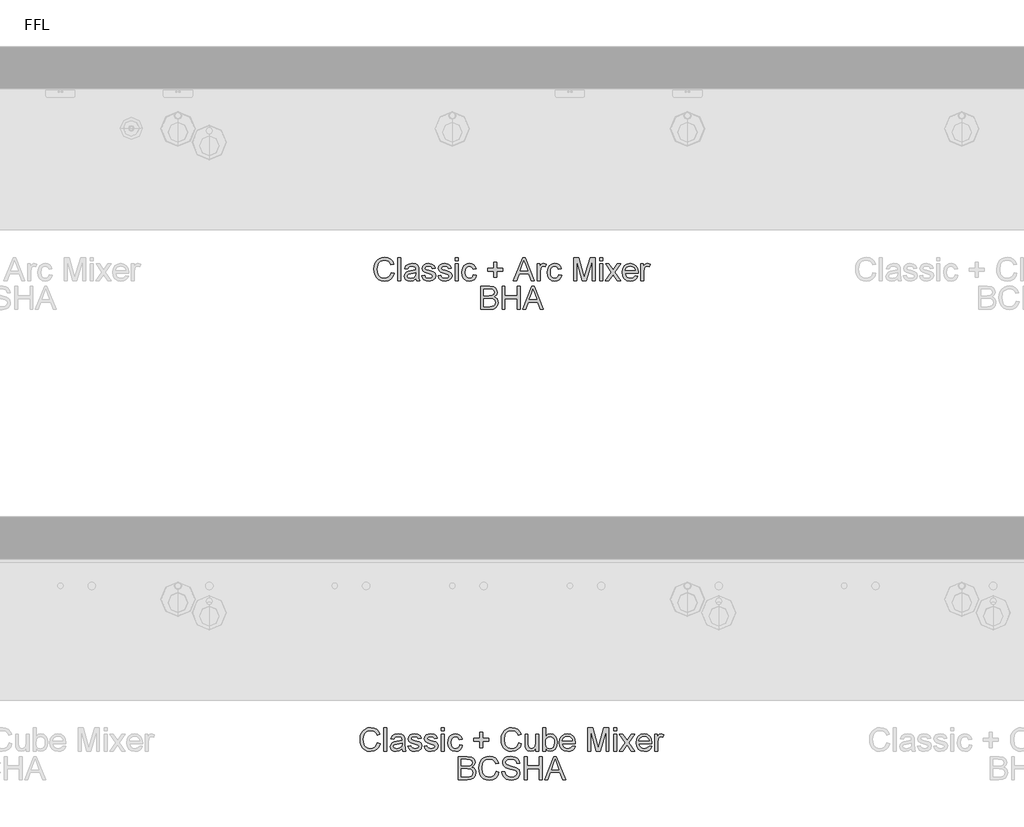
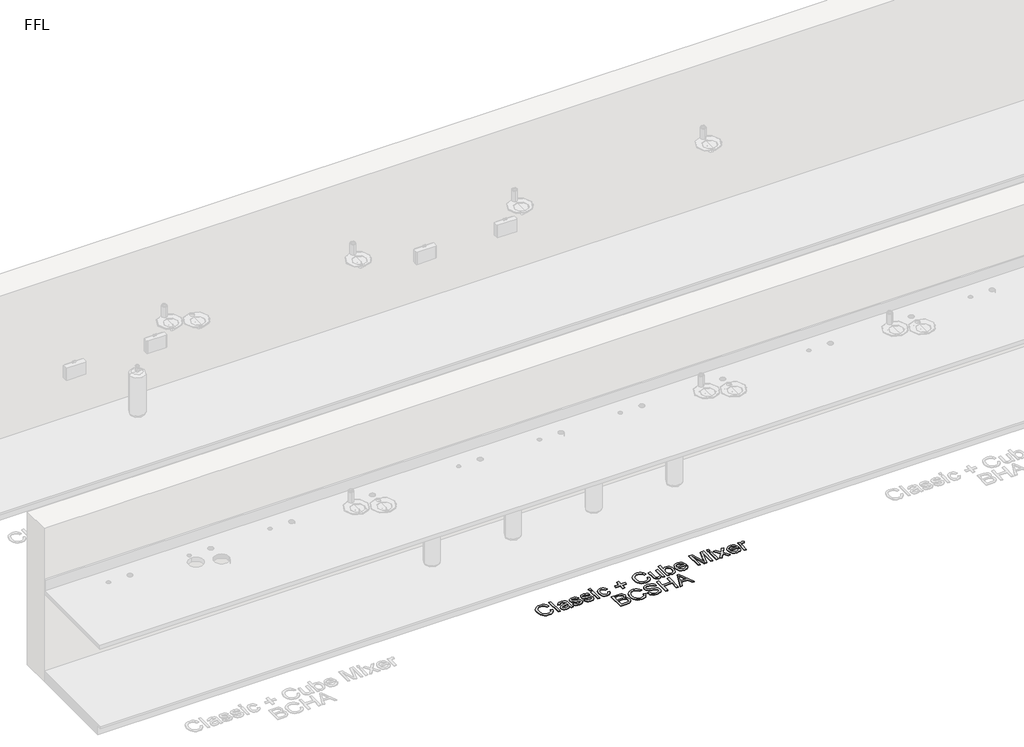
# One storey, part 8 of 13: 2 proxies.
"""IFC4 building model written with IfcOpenShell, lengths in millimetres."""

from ifc_helpers import new_model, si_unit, origin, origin_with_axes, place, context, project, spatial, polyline, outline, extrude, element, save

model = new_model("IFC4")

# Units and contexts
model_context = context("Model", 3, world=origin())
ifc_project = project(units=[si_unit("LENGTHUNIT", "METRE", prefix="MILLI")], contexts=[model_context])

# Site, building, storey
site = spatial("IfcSite", under=ifc_project)
building = spatial("IfcBuilding", under=site)
storey = spatial("IfcBuildingStorey", under=building, Name="FFL", Elevation=0.0)

# Proxies
placement = place(None, origin())
element("IfcBuildingElementProxy", 1, Name="150mm Arial", ObjectType="150mm Arial", at=placement, inside=storey, context=model_context, shape_type="SweptSolid", body=[
    extrude(outline(polyline([(391.419638, 3676.3018309), (409.8811765, 3671.5422155), (401.3625467, 3650.0292948), (387.9941573, 3634.3126482), (370.4340611, 3624.698766), (349.3403111, 3621.4941386), (327.9265491, 3623.9190184), (310.92084, 3631.1936578), (297.8859842, 3643.065653), (288.3847823, 3659.2826001), (282.584001, 3678.3481049), (280.6504073, 3698.7657732), (282.8364049, 3720.3012299), (289.3943976, 3738.8979847), (299.9818375, 3753.9655929), (314.2561765, 3764.9136097), (331.185263, 3771.5797756), (349.7369457, 3773.8018309), (369.9788327, 3770.9262299), (386.7141092, 3762.299427), (399.4199385, 3748.4532732), (407.5734842, 3729.9196193), (389.1119457, 3725.5205809), (382.7117053, 3738.9836217), (373.967715, 3748.2188982), (362.7718015, 3753.5599439), (349.0157919, 3755.3402924), (333.1594217, 3753.3661338), (320.1335803, 3747.4436578), (310.2492654, 3738.1948597), (303.8174746, 3726.2417347), (299.1119457, 3698.8018309), (304.6828592, 3666.9989463), (311.8042534, 3655.1224439), (322.0266092, 3646.6804367), (334.2817174, 3641.6368669), (347.5013688, 3639.955677), (362.911525, 3642.2453405), (375.7525707, 3649.1143309), (385.4475827, 3660.4905328), (391.419638, 3676.3018309)])), origin_with_axes(), (0.0, 0.0, 1.0), 5.0),
    extrude(outline(polyline([(432.9580996, 3623.8018309), (432.9580996, 3771.4941386), (451.419638, 3771.4941386), (451.419638, 3623.8018309), (432.9580996, 3623.8018309)])), origin_with_axes(), (0.0, 0.0, 1.0), 5.0),
    extrude(outline(polyline([(548.342715, 3637.6479847), (530.4400707, 3625.1359655), (510.6624265, 3621.4941386), (495.2342414, 3623.6846434), (483.8535323, 3630.2561578), (476.8358039, 3640.2351242), (474.4965611, 3652.6479847), (478.030215, 3667.2513501), (487.3150707, 3677.8523117), (500.2417534, 3683.910004), (516.2153111, 3686.6864463), (548.2345419, 3693.0326001), (548.342715, 3697.143177), (547.0716813, 3705.3823597), (543.2585803, 3710.7729847), (534.7309361, 3714.7753886), (522.8499265, 3716.1095232), (504.1720419, 3712.5578405), (495.2657919, 3699.955677), (476.8042534, 3702.2633693), (484.7910323, 3720.2922155), (500.872763, 3730.8571193), (525.2297342, 3734.5710617), (547.6035323, 3731.2898117), (560.2417534, 3723.050629), (565.9028111, 3710.5205809), (566.8042534, 3694.3667347), (566.8042534, 3671.3979847), (567.7417534, 3639.3246674), (571.419638, 3623.8018309), (552.9580996, 3623.8018309), (548.342715, 3637.6479847)]), holes=[polyline([(548.342715, 3674.5710617), (518.5590611, 3668.910004), (502.6756476, 3665.9172155), (495.482138, 3661.049427), (492.9580996, 3653.9460617), (498.4568976, 3643.9580809), (514.592715, 3639.955677), (533.2705996, 3644.3727443), (545.3138688, 3655.0638501), (548.2345419, 3669.3426963), (548.342715, 3674.5710617)])]), origin_with_axes(), (0.0, 0.0, 1.0), 5.0),
    extrude(outline(polyline([(585.2657919, 3656.1095232), (603.7273303, 3658.4172155), (606.638989, 3650.5205809), (612.2730034, 3644.7152924), (631.8523303, 3639.955677), (650.6744457, 3644.3186578), (656.8042534, 3654.5590424), (650.638388, 3662.8523117), (631.6359842, 3668.1167347), (603.8355034, 3677.1491867), (591.70209, 3687.6960617), (587.5734842, 3702.5878886), (590.8907919, 3716.3438982), (599.9412726, 3726.8547155), (611.6780515, 3732.3174559), (627.561465, 3734.5710617), (650.0254073, 3730.9472636), (664.3042534, 3721.1395713), (670.6504073, 3704.5710617), (652.1888688, 3702.2633693), (645.247763, 3712.4496674), (629.0037726, 3716.1095232), (611.3355034, 3712.611927), (606.0350226, 3704.4628886), (608.2345419, 3699.0902924), (615.1215611, 3695.0157732), (631.0230034, 3691.0854847), (658.1203592, 3682.3955809), (670.7044938, 3672.5518309), (675.2657919, 3656.5061578), (669.9112246, 3638.8378886), (654.4605034, 3626.019379), (631.5999265, 3621.4941386), (612.9851428, 3623.675629), (599.4004073, 3630.2201001), (590.3318976, 3641.0554367), (585.2657919, 3656.1095232)])), origin_with_axes(), (0.0, 0.0, 1.0), 5.0),
    extrude(outline(polyline([(689.1119457, 3656.1095232), (707.5734842, 3658.4172155), (710.4851428, 3650.5205809), (716.1191573, 3644.7152924), (735.6984842, 3639.955677), (754.5205996, 3644.3186578), (760.6504073, 3654.5590424), (754.4845419, 3662.8523117), (735.482138, 3668.1167347), (707.6816573, 3677.1491867), (695.5482438, 3687.6960617), (691.419638, 3702.5878886), (694.7369457, 3716.3438982), (703.7874265, 3726.8547155), (715.5242053, 3732.3174559), (731.4076188, 3734.5710617), (753.8715611, 3730.9472636), (768.1504073, 3721.1395713), (774.4965611, 3704.5710617), (756.0350226, 3702.2633693), (749.0939169, 3712.4496674), (732.8499265, 3716.1095232), (715.1816573, 3712.611927), (709.8811765, 3704.4628886), (712.0806957, 3699.0902924), (718.967715, 3695.0157732), (734.8691573, 3691.0854847), (761.966513, 3682.3955809), (774.5506476, 3672.5518309), (779.1119457, 3656.5061578), (773.7573784, 3638.8378886), (758.3066573, 3626.019379), (735.4460803, 3621.4941386), (716.8312967, 3623.675629), (703.2465611, 3630.2201001), (694.1780515, 3641.0554367), (689.1119457, 3656.1095232)])), origin_with_axes(), (0.0, 0.0, 1.0), 5.0),
    extrude(outline(polyline([(799.8811765, 3623.8018309), (799.8811765, 3732.2633693), (818.342715, 3732.2633693), (818.342715, 3623.8018309), (799.8811765, 3623.8018309)])), origin_with_axes(), (0.0, 0.0, 1.0), 5.0),
    extrude(outline(polyline([(799.8811765, 3753.0326001), (799.8811765, 3771.4941386), (818.342715, 3771.4941386), (818.342715, 3753.0326001), (799.8811765, 3753.0326001)])), origin_with_axes(), (0.0, 0.0, 1.0), 5.0),
    extrude(outline(polyline([(915.2657919, 3663.0326001), (933.7273303, 3660.7249078), (928.5800948, 3644.3051362), (918.9076188, 3631.8967828), (905.6203592, 3624.0947996), (889.6287726, 3621.4941386), (869.990852, 3625.1224439), (854.6347823, 3636.0073597), (844.7234241, 3653.6711217), (841.419638, 3677.6359655), (847.0626669, 3708.3030328), (854.1840611, 3719.8009294), (864.2621861, 3728.0085617), (876.318977, 3732.9304367), (889.3763688, 3734.5710617), (904.9758279, 3732.3174559), (917.4472823, 3725.5566386), (926.3940972, 3714.6491867), (931.419638, 3699.955677), (912.9580996, 3697.6479847), (904.3943976, 3711.4761097), (889.5205996, 3716.1095232), (877.5900106, 3713.8288742), (868.1203592, 3706.986927), (861.9409722, 3695.2140905), (859.8811765, 3678.1407732), (861.8959, 3660.8375881), (867.9400707, 3649.0241867), (877.2384481, 3642.2228044), (889.0157919, 3639.955677), (898.5755875, 3641.3709415), (906.4136284, 3645.6167347), (912.115251, 3652.8012299), (915.2657919, 3663.0326001)])), origin_with_axes(), (0.0, 0.0, 1.0), 5.0),
    extrude(outline(polyline([(1044.4965611, 3646.878754), (1044.4965611, 3686.1095232), (1005.2657919, 3686.1095232), (1005.2657919, 3704.5710617), (1044.4965611, 3704.5710617), (1044.4965611, 3743.8018309), (1062.9580996, 3743.8018309), (1062.9580996, 3704.5710617), (1102.1888688, 3704.5710617), (1102.1888688, 3686.1095232), (1062.9580996, 3686.1095232), (1062.9580996, 3646.878754), (1044.4965611, 3646.878754)])), origin_with_axes(), (0.0, 0.0, 1.0), 5.0),
    extrude(outline(polyline([(1170.373965, 3623.8018309), (1229.3282919, 3771.4941386), (1245.0494457, 3771.4941386), (1304.0037726, 3623.8018309), (1284.4965611, 3623.8018309), (1267.5855034, 3669.955677), (1206.7561765, 3669.955677), (1189.8811765, 3623.8018309), (1170.373965, 3623.8018309)]), holes=[polyline([(1213.5350226, 3688.4172155), (1260.842715, 3688.4172155), (1247.5374265, 3724.7273117), (1237.1888688, 3753.0326001), (1227.9941573, 3727.9003886), (1213.5350226, 3688.4172155)])]), origin_with_axes(), (0.0, 0.0, 1.0), 5.0),
    extrude(outline(polyline([(1321.419638, 3623.8018309), (1321.419638, 3732.2633693), (1337.5734842, 3732.2633693), (1337.5734842, 3716.2176963), (1349.0398303, 3731.0013501), (1360.5782919, 3734.5710617), (1379.1119457, 3728.8739463), (1372.9460803, 3712.3234655), (1359.9653111, 3716.1095232), (1349.5266092, 3712.4676963), (1342.873965, 3702.3715424), (1339.8811765, 3680.8090424), (1339.8811765, 3623.8018309), (1321.419638, 3623.8018309)])), origin_with_axes(), (0.0, 0.0, 1.0), 5.0),
    extrude(outline(polyline([(1459.8811765, 3663.0326001), (1478.342715, 3660.7249078), (1473.1954794, 3644.3051362), (1463.5230034, 3631.8967828), (1450.2357438, 3624.0947996), (1434.2441573, 3621.4941386), (1414.6062366, 3625.1224439), (1399.2501669, 3636.0073597), (1389.3388087, 3653.6711217), (1386.0350226, 3677.6359655), (1391.6780515, 3708.3030328), (1398.7994457, 3719.8009294), (1408.8775707, 3728.0085617), (1420.9343616, 3732.9304367), (1433.9917534, 3734.5710617), (1449.5912125, 3732.3174559), (1462.0626669, 3725.5566386), (1471.0094818, 3714.6491867), (1476.0350226, 3699.955677), (1457.5734842, 3697.6479847), (1449.0097823, 3711.4761097), (1434.1359842, 3716.1095232), (1422.2053952, 3713.8288742), (1412.7357438, 3706.986927), (1406.5563568, 3695.2140905), (1404.4965611, 3678.1407732), (1406.5112847, 3660.8375881), (1412.5554553, 3649.0241867), (1421.8538327, 3642.2228044), (1433.6311765, 3639.955677), (1443.1909722, 3641.3709415), (1451.029013, 3645.6167347), (1456.7306356, 3652.8012299), (1459.8811765, 3663.0326001)])), origin_with_axes(), (0.0, 0.0, 1.0), 5.0),
    extrude(outline(polyline([(1554.4965611, 3623.8018309), (1554.4965611, 3771.4941386), (1586.263388, 3771.4941386), (1616.4797342, 3667.3955809), (1622.5734842, 3645.6527924), (1629.1720419, 3669.1984655), (1658.8835803, 3771.4941386), (1690.6504073, 3771.4941386), (1690.6504073, 3623.8018309), (1672.1888688, 3623.8018309), (1672.1888688, 3753.0326001), (1635.0855034, 3623.8018309), (1610.061465, 3623.8018309), (1572.9580996, 3753.0326001), (1572.9580996, 3623.8018309), (1554.4965611, 3623.8018309)])), origin_with_axes(), (0.0, 0.0, 1.0), 5.0),
    extrude(outline(polyline([(1720.6504073, 3753.0326001), (1720.6504073, 3771.4941386), (1739.1119457, 3771.4941386), (1739.1119457, 3753.0326001), (1720.6504073, 3753.0326001)])), origin_with_axes(), (0.0, 0.0, 1.0), 5.0),
    extrude(outline(polyline([(1720.6504073, 3623.8018309), (1720.6504073, 3732.2633693), (1739.1119457, 3732.2633693), (1739.1119457, 3623.8018309), (1720.6504073, 3623.8018309)])), origin_with_axes(), (0.0, 0.0, 1.0), 5.0),
    extrude(outline(polyline([(1755.2657919, 3623.8018309), (1794.7129073, 3678.3210617), (1757.5734842, 3732.2633693), (1779.7850226, 3732.2633693), (1797.7056957, 3706.3018309), (1806.0710803, 3694.0422155), (1813.3186765, 3704.066254), (1833.7273303, 3732.2633693), (1855.9388688, 3732.2633693), (1816.9244457, 3678.3210617), (1854.4965611, 3623.8018309), (1832.2850226, 3623.8018309), (1809.6768496, 3656.5782732), (1805.530215, 3662.5638501), (1777.4773303, 3623.8018309), (1755.2657919, 3623.8018309)])), origin_with_axes(), (0.0, 0.0, 1.0), 5.0),
    extrude(outline(polyline([(1946.5879073, 3656.1095232), (1964.6888688, 3653.8018309), (1958.1669337, 3640.1630088), (1947.7597823, 3629.9676963), (1933.7017895, 3623.612528), (1916.2273303, 3621.4941386), (1894.5656717, 3625.1494871), (1877.8980034, 3636.1155328), (1867.2699986, 3653.6801362), (1863.7273303, 3677.1311578), (1867.3060563, 3701.3709415), (1878.0422342, 3719.4989463), (1894.4845419, 3730.8030328), (1915.1816573, 3734.5710617), (1935.2342414, 3730.8120472), (1951.2573784, 3719.535004), (1961.7636885, 3701.4430568), (1965.2657919, 3677.2393309), (1965.1576188, 3672.2633693), (1882.1888688, 3672.2633693), (1885.3844818, 3658.4442588), (1892.8078592, 3648.285004), (1903.521501, 3642.0380088), (1916.5879073, 3639.955677), (1934.6888688, 3643.8138501), (1946.5879073, 3656.1095232)]), holes=[polyline([(1882.1888688, 3690.7249078), (1946.8042534, 3690.7249078), (1944.3072582, 3700.4785136), (1939.4124265, 3707.455677), (1928.6492053, 3713.9460617), (1915.1095419, 3716.1095232), (1902.6651308, 3714.3832612), (1892.3751669, 3709.2044751), (1885.2222222, 3701.1320592), (1882.1888688, 3690.7249078)])]), origin_with_axes(), (0.0, 0.0, 1.0), 5.0),
    extrude(outline(polyline([(1983.7273303, 3623.8018309), (1983.7273303, 3732.2633693), (1999.8811765, 3732.2633693), (1999.8811765, 3716.2176963), (2011.3475226, 3731.0013501), (2022.8859842, 3734.5710617), (2041.419638, 3728.8739463), (2035.2537726, 3712.3234655), (2022.2730034, 3716.1095232), (2011.8343015, 3712.4676963), (2005.1816573, 3702.3715424), (2002.1888688, 3680.8090424), (2002.1888688, 3623.8018309), (1983.7273303, 3623.8018309)])), origin_with_axes(), (0.0, 0.0, 1.0), 5.0),
    extrude(outline(polyline([(961.419638, 3441.4941386), (961.419638, 3589.1864463), (1017.7778111, 3589.1864463), (1045.3799746, 3584.8414943), (1054.6558159, 3579.3291746), (1061.6780515, 3571.4821193), (1067.5734842, 3552.5878886), (1062.6155515, 3535.3342828), (1047.6335803, 3522.2633693), (1058.0948183, 3516.800629), (1065.8246861, 3508.4893309), (1070.5978231, 3497.8793549), (1072.1888688, 3485.5205809), (1067.8439169, 3465.6708213), (1057.0806957, 3451.5362059), (1041.0169938, 3444.0362059), (1017.3451188, 3441.4941386), (961.419638, 3441.4941386)]), holes=[polyline([(979.8811765, 3529.1864463), (1013.5951188, 3529.1864463), (1033.2826188, 3530.7729847), (1045.1275707, 3537.6059174), (1049.1119457, 3549.6311578), (1045.3980034, 3561.674427), (1034.7609842, 3568.7958213), (1011.0350226, 3570.7249078), (979.8811765, 3570.7249078), (979.8811765, 3529.1864463)]), polyline([(979.8811765, 3459.955677), (1017.7417534, 3459.955677), (1031.4436765, 3460.6768309), (1043.0362246, 3464.6972636), (1050.716513, 3472.9003886), (1053.7273303, 3485.3402924), (1050.1936765, 3499.691254), (1038.7453592, 3508.2549559), (1015.9388688, 3510.7249078), (979.8811765, 3510.7249078), (979.8811765, 3459.955677)])]), origin_with_axes(), (0.0, 0.0, 1.0), 5.0),
    extrude(outline(polyline([(1097.5734842, 3441.4941386), (1097.5734842, 3589.1864463), (1116.0350226, 3589.1864463), (1116.0350226, 3529.1864463), (1194.4965611, 3529.1864463), (1194.4965611, 3589.1864463), (1212.9580996, 3589.1864463), (1212.9580996, 3441.4941386), (1194.4965611, 3441.4941386), (1194.4965611, 3510.7249078), (1116.0350226, 3510.7249078), (1116.0350226, 3441.4941386), (1097.5734842, 3441.4941386)])), origin_with_axes(), (0.0, 0.0, 1.0), 5.0),
    extrude(outline(polyline([(1228.0662726, 3441.4941386), (1287.0205996, 3589.1864463), (1302.7417534, 3589.1864463), (1361.6960803, 3441.4941386), (1342.1888688, 3441.4941386), (1325.2778111, 3487.6479847), (1264.4484842, 3487.6479847), (1247.5734842, 3441.4941386), (1228.0662726, 3441.4941386)]), holes=[polyline([(1271.2273303, 3506.1095232), (1318.5350226, 3506.1095232), (1305.2297342, 3542.4196193), (1294.8811765, 3570.7249078), (1285.686465, 3545.5926963), (1271.2273303, 3506.1095232)])]), origin_with_axes(), (0.0, 0.0, 1.0), 5.0),
])
element("IfcBuildingElementProxy", 2, Name="150mm Arial", ObjectType="150mm Arial", at=placement, inside=storey, context=model_context, shape_type="SweptSolid", body=[
    extrude(outline(polyline([(302.5723994, 676.3018309), (321.0339379, 671.5422155), (312.5153081, 650.0292948), (299.1469187, 634.3126482), (281.5868225, 624.698766), (260.4930725, 621.4941386), (239.0793105, 623.9190184), (222.0736014, 631.1936578), (209.0387456, 643.065653), (199.5375437, 659.2826001), (193.7367624, 678.3481049), (191.8031687, 698.7657732), (193.9891663, 720.3012299), (200.5471591, 738.8979847), (211.134599, 753.9655929), (225.4089379, 764.9136097), (242.3380244, 771.5797756), (260.8897071, 773.8018309), (281.1315941, 770.9262299), (297.8668706, 762.299427), (310.5726999, 748.4532732), (318.7262456, 729.9196193), (300.2647071, 725.5205809), (293.8644667, 738.9836217), (285.1204764, 748.2188982), (273.9245629, 753.5599439), (260.1685533, 755.3402924), (244.3121831, 753.3661338), (231.2863417, 747.4436578), (221.4020268, 738.1948597), (214.970236, 726.2417347), (210.2647071, 698.8018309), (215.8356206, 666.9989463), (222.9570148, 655.1224439), (233.1793706, 646.6804367), (245.4344788, 641.6368669), (258.6541302, 639.955677), (274.0642865, 642.2453405), (286.9053321, 649.1143309), (296.6003441, 660.4905328), (302.5723994, 676.3018309)])), origin_with_axes(), (0.0, 0.0, 1.0), 5.0),
    extrude(outline(polyline([(344.110861, 623.8018309), (344.110861, 771.4941386), (362.5723994, 771.4941386), (362.5723994, 623.8018309), (344.110861, 623.8018309)])), origin_with_axes(), (0.0, 0.0, 1.0), 5.0),
    extrude(outline(polyline([(459.4954764, 637.6479847), (441.5928321, 625.1359655), (421.8151879, 621.4941386), (406.3870028, 623.6846434), (395.0062937, 630.2561578), (387.9885653, 640.2351242), (385.6493225, 652.6479847), (389.1829764, 667.2513501), (398.4678321, 677.8523117), (411.3945148, 683.910004), (427.3680725, 686.6864463), (459.3873033, 693.0326001), (459.4954764, 697.143177), (458.2244427, 705.3823597), (454.4113417, 710.7729847), (445.8836975, 714.7753886), (434.0026879, 716.1095232), (415.3248033, 712.5578405), (406.4185533, 699.955677), (387.9570148, 702.2633693), (395.9437937, 720.2922155), (412.0255244, 730.8571193), (436.3824956, 734.5710617), (458.7562937, 731.2898117), (471.3945148, 723.050629), (477.0555725, 710.5205809), (477.9570148, 694.3667347), (477.9570148, 671.3979847), (478.8945148, 639.3246674), (482.5723994, 623.8018309), (464.110861, 623.8018309), (459.4954764, 637.6479847)]), holes=[polyline([(459.4954764, 674.5710617), (429.7118225, 668.910004), (413.8284091, 665.9172155), (406.6348994, 661.049427), (404.110861, 653.9460617), (409.6096591, 643.9580809), (425.7454764, 639.955677), (444.423361, 644.3727443), (456.4666302, 655.0638501), (459.3873033, 669.3426963), (459.4954764, 674.5710617)])]), origin_with_axes(), (0.0, 0.0, 1.0), 5.0),
    extrude(outline(polyline([(496.4185533, 656.1095232), (514.8800917, 658.4172155), (517.7917504, 650.5205809), (523.4257648, 644.7152924), (543.0050917, 639.955677), (561.8272071, 644.3186578), (567.9570148, 654.5590424), (561.7911494, 662.8523117), (542.7887456, 668.1167347), (514.9882648, 677.1491867), (502.8548514, 687.6960617), (498.7262456, 702.5878886), (502.0435533, 716.3438982), (511.0940341, 726.8547155), (522.8308129, 732.3174559), (538.7142264, 734.5710617), (561.1781687, 730.9472636), (575.4570148, 721.1395713), (581.8031687, 704.5710617), (563.3416302, 702.2633693), (556.4005244, 712.4496674), (540.1565341, 716.1095232), (522.4882648, 712.611927), (517.1877841, 704.4628886), (519.3873033, 699.0902924), (526.2743225, 695.0157732), (542.1757648, 691.0854847), (569.2731206, 682.3955809), (581.8572552, 672.5518309), (586.4185533, 656.5061578), (581.063986, 638.8378886), (565.6132648, 626.019379), (542.7526879, 621.4941386), (524.1379042, 623.675629), (510.5531687, 630.2201001), (501.4846591, 641.0554367), (496.4185533, 656.1095232)])), origin_with_axes(), (0.0, 0.0, 1.0), 5.0),
    extrude(outline(polyline([(600.2647071, 656.1095232), (618.7262456, 658.4172155), (621.6379042, 650.5205809), (627.2719187, 644.7152924), (646.8512456, 639.955677), (665.673361, 644.3186578), (671.8031687, 654.5590424), (665.6373033, 662.8523117), (646.6348994, 668.1167347), (618.8344187, 677.1491867), (606.7010052, 687.6960617), (602.5723994, 702.5878886), (605.8897071, 716.3438982), (614.9401879, 726.8547155), (626.6769667, 732.3174559), (642.5603802, 734.5710617), (665.0243225, 730.9472636), (679.3031687, 721.1395713), (685.6493225, 704.5710617), (667.1877841, 702.2633693), (660.2466783, 712.4496674), (644.0026879, 716.1095232), (626.3344187, 712.611927), (621.0339379, 704.4628886), (623.2334571, 699.0902924), (630.1204764, 695.0157732), (646.0219187, 691.0854847), (673.1192744, 682.3955809), (685.7034091, 672.5518309), (690.2647071, 656.5061578), (684.9101398, 638.8378886), (669.4594187, 626.019379), (646.5988417, 621.4941386), (627.9840581, 623.675629), (614.3993225, 630.2201001), (605.3308129, 641.0554367), (600.2647071, 656.1095232)])), origin_with_axes(), (0.0, 0.0, 1.0), 5.0),
    extrude(outline(polyline([(711.0339379, 623.8018309), (711.0339379, 732.2633693), (729.4954764, 732.2633693), (729.4954764, 623.8018309), (711.0339379, 623.8018309)])), origin_with_axes(), (0.0, 0.0, 1.0), 5.0),
    extrude(outline(polyline([(711.0339379, 753.0326001), (711.0339379, 771.4941386), (729.4954764, 771.4941386), (729.4954764, 753.0326001), (711.0339379, 753.0326001)])), origin_with_axes(), (0.0, 0.0, 1.0), 5.0),
    extrude(outline(polyline([(826.4185533, 663.0326001), (844.8800917, 660.7249078), (839.7328562, 644.3051362), (830.0603802, 631.8967828), (816.7731206, 624.0947996), (800.7815341, 621.4941386), (781.1436134, 625.1224439), (765.7875437, 636.0073597), (755.8761855, 653.6711217), (752.5723994, 677.6359655), (758.2154283, 708.3030328), (765.3368225, 719.8009294), (775.4149475, 728.0085617), (787.4717384, 732.9304367), (800.5291302, 734.5710617), (816.1285893, 732.3174559), (828.6000437, 725.5566386), (837.5468586, 714.6491867), (842.5723994, 699.955677), (824.110861, 697.6479847), (815.5471591, 711.4761097), (800.673361, 716.1095232), (788.742772, 713.8288742), (779.2731206, 706.986927), (773.0937336, 695.2140905), (771.0339379, 678.1407732), (773.0486615, 660.8375881), (779.0928321, 649.0241867), (788.3912095, 642.2228044), (800.1685533, 639.955677), (809.728349, 641.3709415), (817.5663898, 645.6167347), (823.2680124, 652.8012299), (826.4185533, 663.0326001)])), origin_with_axes(), (0.0, 0.0, 1.0), 5.0),
    extrude(outline(polyline([(955.6493225, 646.878754), (955.6493225, 686.1095232), (916.4185533, 686.1095232), (916.4185533, 704.5710617), (955.6493225, 704.5710617), (955.6493225, 743.8018309), (974.110861, 743.8018309), (974.110861, 704.5710617), (1013.3416302, 704.5710617), (1013.3416302, 686.1095232), (974.110861, 686.1095232), (974.110861, 646.878754), (955.6493225, 646.878754)])), origin_with_axes(), (0.0, 0.0, 1.0), 5.0),
    extrude(outline(polyline([(1202.5723994, 676.3018309), (1221.0339379, 671.5422155), (1212.5153081, 650.0292948), (1199.1469187, 634.3126482), (1181.5868225, 624.698766), (1160.4930725, 621.4941386), (1139.0793105, 623.9190184), (1122.0736014, 631.1936578), (1109.0387456, 643.065653), (1099.5375437, 659.2826001), (1093.7367624, 678.3481049), (1091.8031687, 698.7657732), (1093.9891663, 720.3012299), (1100.5471591, 738.8979847), (1111.134599, 753.9655929), (1125.4089379, 764.9136097), (1142.3380244, 771.5797756), (1160.8897071, 773.8018309), (1181.1315941, 770.9262299), (1197.8668706, 762.299427), (1210.5726999, 748.4532732), (1218.7262456, 729.9196193), (1200.2647071, 725.5205809), (1193.8644667, 738.9836217), (1185.1204764, 748.2188982), (1173.9245629, 753.5599439), (1160.1685533, 755.3402924), (1144.3121831, 753.3661338), (1131.2863417, 747.4436578), (1121.4020268, 738.1948597), (1114.970236, 726.2417347), (1110.2647071, 698.8018309), (1115.8356206, 666.9989463), (1122.9570148, 655.1224439), (1133.1793706, 646.6804367), (1145.4344788, 641.6368669), (1158.6541302, 639.955677), (1174.0642865, 642.2453405), (1186.9053321, 649.1143309), (1196.6003441, 660.4905328), (1202.5723994, 676.3018309)])), origin_with_axes(), (0.0, 0.0, 1.0), 5.0),
    extrude(outline(polyline([(1313.3416302, 623.8018309), (1313.3416302, 642.4436578), (1298.8824956, 626.7315184), (1280.0243225, 621.4941386), (1262.6625437, 625.1720232), (1250.6913898, 634.4027924), (1245.1925917, 647.9965424), (1244.110861, 665.160004), (1244.110861, 732.2633693), (1262.5723994, 732.2633693), (1262.5723994, 673.8499078), (1263.6901879, 655.0277924), (1270.9918706, 643.9761097), (1284.7478802, 639.955677), (1300.1625437, 644.066254), (1310.3488417, 655.2621674), (1313.3416302, 675.8330809), (1313.3416302, 732.2633693), (1331.8031687, 732.2633693), (1331.8031687, 623.8018309), (1313.3416302, 623.8018309)])), origin_with_axes(), (0.0, 0.0, 1.0), 5.0),
    extrude(outline(polyline([(1375.6493225, 623.8018309), (1357.1877841, 623.8018309), (1357.1877841, 771.4941386), (1375.6493225, 771.4941386), (1375.6493225, 716.722504), (1388.5760052, 730.1089222), (1404.6397071, 734.5710617), (1423.1373033, 730.550629), (1437.4882648, 719.2465424), (1446.3043706, 701.6684174), (1449.4954764, 679.6551963), (1446.1916903, 655.0097636), (1436.2803321, 636.674427), (1421.7355605, 625.2892107), (1404.5315341, 621.4941386), (1388.1162696, 626.3889703), (1375.6493225, 641.0734655), (1375.6493225, 623.8018309)]), holes=[polyline([(1375.6493225, 678.7898117), (1376.9113417, 663.393177), (1380.6973994, 652.972504), (1390.3698754, 643.2098838), (1402.9449956, 639.955677), (1413.6000437, 642.3535136), (1422.704611, 649.5470232), (1428.9516062, 661.4911338), (1431.0339379, 678.1407732), (1429.0372432, 695.033802), (1423.0471591, 706.8426963), (1414.2265461, 713.7928165), (1403.7382648, 716.1095232), (1393.0832167, 713.7116867), (1383.9786494, 706.518177), (1377.7316542, 694.7904126), (1375.6493225, 678.7898117)])]), origin_with_axes(), (0.0, 0.0, 1.0), 5.0),
    extrude(outline(polyline([(1546.2022071, 656.1095232), (1564.3031687, 653.8018309), (1557.7812336, 640.1630088), (1547.3740821, 629.9676963), (1533.3160893, 623.612528), (1515.8416302, 621.4941386), (1494.1799716, 625.1494871), (1477.5123033, 636.1155328), (1466.8842985, 653.6801362), (1463.3416302, 677.1311578), (1466.9203562, 701.3709415), (1477.6565341, 719.4989463), (1494.0988417, 730.8030328), (1514.7959571, 734.5710617), (1534.8485413, 730.8120472), (1550.8716783, 719.535004), (1561.3779884, 701.4430568), (1564.8800917, 677.2393309), (1564.7719187, 672.2633693), (1481.8031687, 672.2633693), (1484.9987816, 658.4442588), (1492.4221591, 648.285004), (1503.1358009, 642.0380088), (1516.2022071, 639.955677), (1534.3031687, 643.8138501), (1546.2022071, 656.1095232)]), holes=[polyline([(1481.8031687, 690.7249078), (1546.4185533, 690.7249078), (1543.9215581, 700.4785136), (1539.0267264, 707.455677), (1528.2635052, 713.9460617), (1514.7238417, 716.1095232), (1502.2794307, 714.3832612), (1491.9894667, 709.2044751), (1484.836522, 701.1320592), (1481.8031687, 690.7249078)])]), origin_with_axes(), (0.0, 0.0, 1.0), 5.0),
    extrude(outline(polyline([(1643.3416302, 623.8018309), (1643.3416302, 771.4941386), (1675.1084571, 771.4941386), (1705.3248033, 667.3955809), (1711.4185533, 645.6527924), (1718.017111, 669.1984655), (1747.7286494, 771.4941386), (1779.4954764, 771.4941386), (1779.4954764, 623.8018309), (1761.0339379, 623.8018309), (1761.0339379, 753.0326001), (1723.9305725, 623.8018309), (1698.9065341, 623.8018309), (1661.8031687, 753.0326001), (1661.8031687, 623.8018309), (1643.3416302, 623.8018309)])), origin_with_axes(), (0.0, 0.0, 1.0), 5.0),
    extrude(outline(polyline([(1809.4954764, 623.8018309), (1809.4954764, 732.2633693), (1827.9570148, 732.2633693), (1827.9570148, 623.8018309), (1809.4954764, 623.8018309)])), origin_with_axes(), (0.0, 0.0, 1.0), 5.0),
    extrude(outline(polyline([(1809.4954764, 753.0326001), (1809.4954764, 771.4941386), (1827.9570148, 771.4941386), (1827.9570148, 753.0326001), (1809.4954764, 753.0326001)])), origin_with_axes(), (0.0, 0.0, 1.0), 5.0),
    extrude(outline(polyline([(1844.110861, 623.8018309), (1883.5579764, 678.3210617), (1846.4185533, 732.2633693), (1868.6300917, 732.2633693), (1886.5507648, 706.3018309), (1894.9161494, 694.0422155), (1902.1637456, 704.066254), (1922.5723994, 732.2633693), (1944.7839379, 732.2633693), (1905.7695148, 678.3210617), (1943.3416302, 623.8018309), (1921.1300917, 623.8018309), (1898.5219187, 656.5782732), (1894.3752841, 662.5638501), (1866.3223994, 623.8018309), (1844.110861, 623.8018309)])), origin_with_axes(), (0.0, 0.0, 1.0), 5.0),
    extrude(outline(polyline([(2035.4329764, 656.1095232), (2053.5339379, 653.8018309), (2047.0120028, 640.1630088), (2036.6048514, 629.9676963), (2022.5468586, 623.612528), (2005.0723994, 621.4941386), (1983.4107408, 625.1494871), (1966.7430725, 636.1155328), (1956.1150677, 653.6801362), (1952.5723994, 677.1311578), (1956.1511254, 701.3709415), (1966.8873033, 719.4989463), (1983.329611, 730.8030328), (2004.0267264, 734.5710617), (2024.0793105, 730.8120472), (2040.1024475, 719.535004), (2050.6087576, 701.4430568), (2054.110861, 677.2393309), (2054.0026879, 672.2633693), (1971.0339379, 672.2633693), (1974.2295509, 658.4442588), (1981.6529283, 648.285004), (1992.3665701, 642.0380088), (2005.4329764, 639.955677), (2023.5339379, 643.8138501), (2035.4329764, 656.1095232)]), holes=[polyline([(1971.0339379, 690.7249078), (2035.6493225, 690.7249078), (2033.1523273, 700.4785136), (2028.2574956, 707.455677), (2017.4942744, 713.9460617), (2003.954611, 716.1095232), (1991.5101999, 714.3832612), (1981.220236, 709.2044751), (1974.0672913, 701.1320592), (1971.0339379, 690.7249078)])]), origin_with_axes(), (0.0, 0.0, 1.0), 5.0),
    extrude(outline(polyline([(2072.5723994, 623.8018309), (2072.5723994, 732.2633693), (2088.7262456, 732.2633693), (2088.7262456, 716.2176963), (2100.1925917, 731.0013501), (2111.7310533, 734.5710617), (2130.2647071, 728.8739463), (2124.0988417, 712.3234655), (2111.1180725, 716.1095232), (2100.6793706, 712.4676963), (2094.0267264, 702.3715424), (2091.0339379, 680.8090424), (2091.0339379, 623.8018309), (2072.5723994, 623.8018309)])), origin_with_axes(), (0.0, 0.0, 1.0), 5.0),
    extrude(outline(polyline([(819.4954764, 441.4941386), (819.4954764, 589.1864463), (875.8536494, 589.1864463), (903.4558129, 584.8414943), (912.7316542, 579.3291746), (919.7538898, 571.4821193), (925.6493225, 552.5878886), (920.6913898, 535.3342828), (905.7094187, 522.2633693), (916.1706566, 516.800629), (923.9005244, 508.4893309), (928.6736615, 497.8793549), (930.2647071, 485.5205809), (925.9197552, 465.6708213), (915.1565341, 451.5362059), (899.0928321, 444.0362059), (875.4209571, 441.4941386), (819.4954764, 441.4941386)]), holes=[polyline([(837.9570148, 529.1864463), (871.6709571, 529.1864463), (891.3584571, 530.7729847), (903.2034091, 537.6059174), (907.1877841, 549.6311578), (903.4738417, 561.674427), (892.8368225, 568.7958213), (869.110861, 570.7249078), (837.9570148, 570.7249078), (837.9570148, 529.1864463)]), polyline([(837.9570148, 459.955677), (875.8175917, 459.955677), (889.5195148, 460.6768309), (901.1120629, 464.6972636), (908.7923514, 472.9003886), (911.8031687, 485.3402924), (908.2695148, 499.691254), (896.8211975, 508.2549559), (874.0147071, 510.7249078), (837.9570148, 510.7249078), (837.9570148, 459.955677)])]), origin_with_axes(), (0.0, 0.0, 1.0), 5.0),
    extrude(outline(polyline([(1059.4954764, 493.9941386), (1077.9570148, 489.2345232), (1069.438385, 467.7216025), (1056.0699956, 452.0049559), (1038.5098994, 442.3910737), (1017.4161494, 439.1864463), (996.0023874, 441.6113261), (978.9966783, 448.8859655), (965.9618225, 460.7579607), (956.4606206, 476.9749078), (950.6598393, 496.0404126), (948.7262456, 516.4580809), (950.9122432, 537.9935376), (957.470236, 556.5902924), (968.0576759, 571.6579006), (982.3320148, 582.6059174), (999.2611014, 589.2720833), (1017.8127841, 591.4941386), (1038.0546711, 588.6185376), (1054.7899475, 579.9917347), (1067.4957768, 566.1455809), (1075.6493225, 547.611927), (1057.1877841, 543.2128886), (1050.7875437, 556.6759294), (1042.0435533, 565.9112059), (1030.8476398, 571.2522516), (1017.0916302, 573.0326001), (1001.23526, 571.0584415), (988.2094187, 565.1359655), (978.3251038, 555.8871674), (971.8933129, 543.9340424), (967.1877841, 516.4941386), (972.7586975, 484.691254), (979.8800917, 472.8147516), (990.1024475, 464.3727443), (1002.3575557, 459.3291746), (1015.5772071, 457.6479847), (1030.9873634, 459.9376482), (1043.8284091, 466.8066386), (1053.5234211, 478.1828405), (1059.4954764, 493.9941386)])), origin_with_axes(), (0.0, 0.0, 1.0), 5.0),
    extrude(outline(polyline([(1096.4185533, 492.2633693), (1114.8800917, 492.2633693), (1120.829611, 473.783802), (1135.360861, 462.1011097), (1157.5002841, 457.6479847), (1176.7911494, 461.019379), (1189.2490821, 470.2862059), (1193.3416302, 482.6720232), (1190.2767264, 494.1924559), (1177.7286494, 502.5758693), (1150.8476398, 509.6251482), (1121.9113417, 518.7297155), (1106.2082167, 532.4676963), (1101.0339379, 550.8210617), (1102.633998, 561.6338621), (1107.4341783, 571.7164943), (1115.3082768, 580.2621674), (1126.1300917, 586.4640905), (1153.4978802, 591.4941386), (1182.704611, 586.2297155), (1193.9005244, 579.7303165), (1202.1757648, 570.7609655), (1207.4131446, 559.8805568), (1209.4954764, 547.6479847), (1191.0339379, 547.6479847), (1187.6445148, 558.6636097), (1180.5772071, 566.6143309), (1169.5345389, 571.4280328), (1154.2190341, 573.0326001), (1138.5429523, 571.4460617), (1127.7887456, 566.6864463), (1121.5687937, 559.6822395), (1119.4954764, 551.361927), (1120.9648273, 544.2675761), (1125.3728802, 538.5614463), (1155.517111, 528.2489463), (1188.1853802, 518.9821193), (1198.7097191, 512.284403), (1206.0519667, 504.018177), (1211.8031687, 483.1407732), (1210.149022, 471.7600641), (1205.1865821, 461.0554367), (1197.1186735, 451.8426963), (1186.1481206, 444.9376482), (1158.2214379, 439.1864463), (1140.133998, 440.736927), (1125.2466783, 445.3883693), (1113.3882047, 453.158802), (1104.3873033, 464.066254), (1098.6090581, 477.3535136), (1096.4185533, 492.2633693)])), origin_with_axes(), (0.0, 0.0, 1.0), 5.0),
    extrude(outline(polyline([(1239.4954764, 441.4941386), (1239.4954764, 589.1864463), (1257.9570148, 589.1864463), (1257.9570148, 529.1864463), (1336.4185533, 529.1864463), (1336.4185533, 589.1864463), (1354.8800917, 589.1864463), (1354.8800917, 441.4941386), (1336.4185533, 441.4941386), (1336.4185533, 510.7249078), (1257.9570148, 510.7249078), (1257.9570148, 441.4941386), (1239.4954764, 441.4941386)])), origin_with_axes(), (0.0, 0.0, 1.0), 5.0),
    extrude(outline(polyline([(1369.9882648, 441.4941386), (1428.9425917, 589.1864463), (1444.6637456, 589.1864463), (1503.6180725, 441.4941386), (1484.110861, 441.4941386), (1467.1998033, 487.6479847), (1406.3704764, 487.6479847), (1389.4954764, 441.4941386), (1369.9882648, 441.4941386)]), holes=[polyline([(1413.1493225, 506.1095232), (1460.4570148, 506.1095232), (1447.1517264, 542.4196193), (1436.8031687, 570.7249078), (1427.6084571, 545.5926963), (1413.1493225, 506.1095232)])]), origin_with_axes(), (0.0, 0.0, 1.0), 5.0),
])

save(model, "model.ifc")
